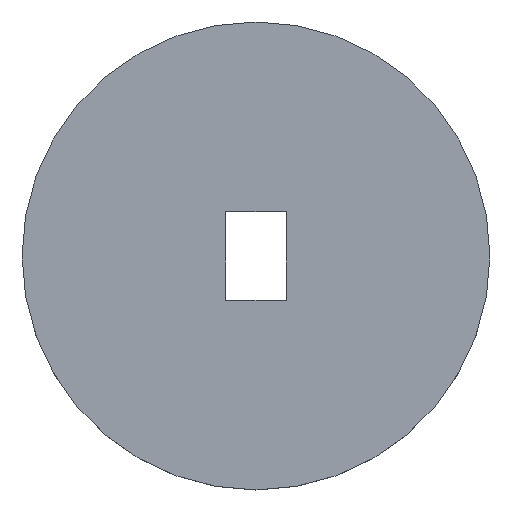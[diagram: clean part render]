
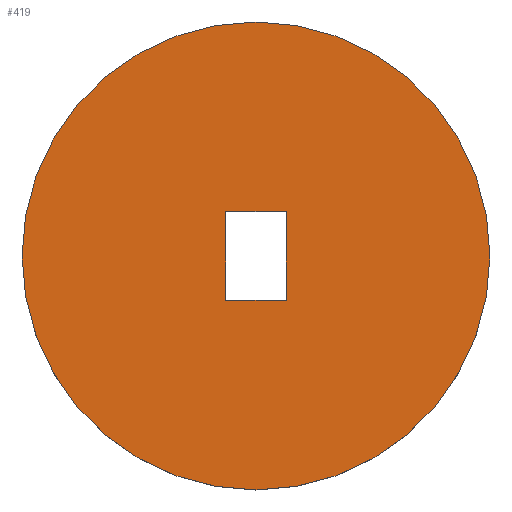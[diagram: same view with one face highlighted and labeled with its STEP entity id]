
A CAD part, top view. The second image highlights one B-rep face of the part: STEP entity #419.
In plain terms, the highlighted planar face has unit normal (0, 0, 1).
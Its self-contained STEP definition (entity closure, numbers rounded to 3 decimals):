
#24 = VERTEX_POINT('',#25);
#25 = CARTESIAN_POINT('',(20.,0.,2.6));
#32 = CYLINDRICAL_SURFACE('',#33,20.);
#33 = AXIS2_PLACEMENT_3D('',#34,#35,#36);
#34 = CARTESIAN_POINT('',(0.,0.,-2.6));
#35 = DIRECTION('',(-0.,-0.,-1.));
#36 = DIRECTION('',(1.,0.,0.));
#51 = EDGE_CURVE('',#24,#24,#52,.T.);
#52 = SURFACE_CURVE('',#53,(#58,#65),.PCURVE_S1.);
#53 = CIRCLE('',#54,20.);
#54 = AXIS2_PLACEMENT_3D('',#55,#56,#57);
#55 = CARTESIAN_POINT('',(0.,0.,2.6));
#56 = DIRECTION('',(0.,0.,1.));
#57 = DIRECTION('',(1.,0.,0.));
#58 = PCURVE('',#32,#59);
#59 = DEFINITIONAL_REPRESENTATION('',(#60),#64);
#60 = LINE('',#61,#62);
#61 = CARTESIAN_POINT('',(-0.,-5.2));
#62 = VECTOR('',#63,1.);
#63 = DIRECTION('',(-1.,0.));
#64 = ( GEOMETRIC_REPRESENTATION_CONTEXT(2) 
PARAMETRIC_REPRESENTATION_CONTEXT() REPRESENTATION_CONTEXT('2D SPACE',''
  ) );
#65 = PCURVE('',#66,#71);
#66 = PLANE('',#67);
#67 = AXIS2_PLACEMENT_3D('',#68,#69,#70);
#68 = CARTESIAN_POINT('',(0.,0.,2.6));
#69 = DIRECTION('',(0.,0.,1.));
#70 = DIRECTION('',(1.,0.,-0.));
#71 = DEFINITIONAL_REPRESENTATION('',(#72),#76);
#72 = CIRCLE('',#73,20.);
#73 = AXIS2_PLACEMENT_2D('',#74,#75);
#74 = CARTESIAN_POINT('',(0.,0.));
#75 = DIRECTION('',(1.,0.));
#76 = ( GEOMETRIC_REPRESENTATION_CONTEXT(2) 
PARAMETRIC_REPRESENTATION_CONTEXT() REPRESENTATION_CONTEXT('2D SPACE',''
  ) );
#112 = VERTEX_POINT('',#113);
#113 = CARTESIAN_POINT('',(-2.6,3.8,2.6));
#120 = PLANE('',#121);
#121 = AXIS2_PLACEMENT_3D('',#122,#123,#124);
#122 = CARTESIAN_POINT('',(-2.6,3.8,-2.6));
#123 = DIRECTION('',(1.,0.,-0.));
#124 = DIRECTION('',(0.,-1.,0.));
#132 = PLANE('',#133);
#133 = AXIS2_PLACEMENT_3D('',#134,#135,#136);
#134 = CARTESIAN_POINT('',(2.6,3.8,-2.6));
#135 = DIRECTION('',(0.,-1.,0.));
#136 = DIRECTION('',(-1.,0.,0.));
#144 = EDGE_CURVE('',#112,#145,#147,.T.);
#145 = VERTEX_POINT('',#146);
#146 = CARTESIAN_POINT('',(-2.6,-3.8,2.6));
#147 = SURFACE_CURVE('',#148,(#152,#159),.PCURVE_S1.);
#148 = LINE('',#149,#150);
#149 = CARTESIAN_POINT('',(-2.6,3.8,2.6));
#150 = VECTOR('',#151,1.);
#151 = DIRECTION('',(0.,-1.,0.));
#152 = PCURVE('',#120,#153);
#153 = DEFINITIONAL_REPRESENTATION('',(#154),#158);
#154 = LINE('',#155,#156);
#155 = CARTESIAN_POINT('',(0.,-5.2));
#156 = VECTOR('',#157,1.);
#157 = DIRECTION('',(1.,0.));
#158 = ( GEOMETRIC_REPRESENTATION_CONTEXT(2) 
PARAMETRIC_REPRESENTATION_CONTEXT() REPRESENTATION_CONTEXT('2D SPACE',''
  ) );
#159 = PCURVE('',#66,#160);
#160 = DEFINITIONAL_REPRESENTATION('',(#161),#165);
#161 = LINE('',#162,#163);
#162 = CARTESIAN_POINT('',(-2.6,3.8));
#163 = VECTOR('',#164,1.);
#164 = DIRECTION('',(0.,-1.));
#165 = ( GEOMETRIC_REPRESENTATION_CONTEXT(2) 
PARAMETRIC_REPRESENTATION_CONTEXT() REPRESENTATION_CONTEXT('2D SPACE',''
  ) );
#183 = PLANE('',#184);
#184 = AXIS2_PLACEMENT_3D('',#185,#186,#187);
#185 = CARTESIAN_POINT('',(-2.6,-3.8,-2.6));
#186 = DIRECTION('',(0.,1.,0.));
#187 = DIRECTION('',(1.,0.,0.));
#222 = VERTEX_POINT('',#223);
#223 = CARTESIAN_POINT('',(2.6,3.8,2.6));
#237 = PLANE('',#238);
#238 = AXIS2_PLACEMENT_3D('',#239,#240,#241);
#239 = CARTESIAN_POINT('',(2.6,-3.8,-2.6));
#240 = DIRECTION('',(-1.,0.,0.));
#241 = DIRECTION('',(0.,1.,0.));
#249 = EDGE_CURVE('',#222,#112,#250,.T.);
#250 = SURFACE_CURVE('',#251,(#255,#262),.PCURVE_S1.);
#251 = LINE('',#252,#253);
#252 = CARTESIAN_POINT('',(2.6,3.8,2.6));
#253 = VECTOR('',#254,1.);
#254 = DIRECTION('',(-1.,0.,0.));
#255 = PCURVE('',#132,#256);
#256 = DEFINITIONAL_REPRESENTATION('',(#257),#261);
#257 = LINE('',#258,#259);
#258 = CARTESIAN_POINT('',(0.,-5.2));
#259 = VECTOR('',#260,1.);
#260 = DIRECTION('',(1.,0.));
#261 = ( GEOMETRIC_REPRESENTATION_CONTEXT(2) 
PARAMETRIC_REPRESENTATION_CONTEXT() REPRESENTATION_CONTEXT('2D SPACE',''
  ) );
#262 = PCURVE('',#66,#263);
#263 = DEFINITIONAL_REPRESENTATION('',(#264),#268);
#264 = LINE('',#265,#266);
#265 = CARTESIAN_POINT('',(2.6,3.8));
#266 = VECTOR('',#267,1.);
#267 = DIRECTION('',(-1.,0.));
#268 = ( GEOMETRIC_REPRESENTATION_CONTEXT(2) 
PARAMETRIC_REPRESENTATION_CONTEXT() REPRESENTATION_CONTEXT('2D SPACE',''
  ) );
#298 = VERTEX_POINT('',#299);
#299 = CARTESIAN_POINT('',(2.6,-3.8,2.6));
#320 = EDGE_CURVE('',#298,#222,#321,.T.);
#321 = SURFACE_CURVE('',#322,(#326,#333),.PCURVE_S1.);
#322 = LINE('',#323,#324);
#323 = CARTESIAN_POINT('',(2.6,-3.8,2.6));
#324 = VECTOR('',#325,1.);
#325 = DIRECTION('',(0.,1.,0.));
#326 = PCURVE('',#237,#327);
#327 = DEFINITIONAL_REPRESENTATION('',(#328),#332);
#328 = LINE('',#329,#330);
#329 = CARTESIAN_POINT('',(0.,-5.2));
#330 = VECTOR('',#331,1.);
#331 = DIRECTION('',(1.,0.));
#332 = ( GEOMETRIC_REPRESENTATION_CONTEXT(2) 
PARAMETRIC_REPRESENTATION_CONTEXT() REPRESENTATION_CONTEXT('2D SPACE',''
  ) );
#333 = PCURVE('',#66,#334);
#334 = DEFINITIONAL_REPRESENTATION('',(#335),#339);
#335 = LINE('',#336,#337);
#336 = CARTESIAN_POINT('',(2.6,-3.8));
#337 = VECTOR('',#338,1.);
#338 = DIRECTION('',(0.,1.));
#339 = ( GEOMETRIC_REPRESENTATION_CONTEXT(2) 
PARAMETRIC_REPRESENTATION_CONTEXT() REPRESENTATION_CONTEXT('2D SPACE',''
  ) );
#367 = EDGE_CURVE('',#145,#298,#368,.T.);
#368 = SURFACE_CURVE('',#369,(#373,#380),.PCURVE_S1.);
#369 = LINE('',#370,#371);
#370 = CARTESIAN_POINT('',(-2.6,-3.8,2.6));
#371 = VECTOR('',#372,1.);
#372 = DIRECTION('',(1.,0.,0.));
#373 = PCURVE('',#183,#374);
#374 = DEFINITIONAL_REPRESENTATION('',(#375),#379);
#375 = LINE('',#376,#377);
#376 = CARTESIAN_POINT('',(0.,-5.2));
#377 = VECTOR('',#378,1.);
#378 = DIRECTION('',(1.,0.));
#379 = ( GEOMETRIC_REPRESENTATION_CONTEXT(2) 
PARAMETRIC_REPRESENTATION_CONTEXT() REPRESENTATION_CONTEXT('2D SPACE',''
  ) );
#380 = PCURVE('',#66,#381);
#381 = DEFINITIONAL_REPRESENTATION('',(#382),#386);
#382 = LINE('',#383,#384);
#383 = CARTESIAN_POINT('',(-2.6,-3.8));
#384 = VECTOR('',#385,1.);
#385 = DIRECTION('',(1.,0.));
#386 = ( GEOMETRIC_REPRESENTATION_CONTEXT(2) 
PARAMETRIC_REPRESENTATION_CONTEXT() REPRESENTATION_CONTEXT('2D SPACE',''
  ) );
#419 = ADVANCED_FACE('',(#420,#423),#66,.T.);
#420 = FACE_BOUND('',#421,.T.);
#421 = EDGE_LOOP('',(#422));
#422 = ORIENTED_EDGE('',*,*,#51,.T.);
#423 = FACE_BOUND('',#424,.T.);
#424 = EDGE_LOOP('',(#425,#426,#427,#428));
#425 = ORIENTED_EDGE('',*,*,#144,.F.);
#426 = ORIENTED_EDGE('',*,*,#249,.F.);
#427 = ORIENTED_EDGE('',*,*,#320,.F.);
#428 = ORIENTED_EDGE('',*,*,#367,.F.);
